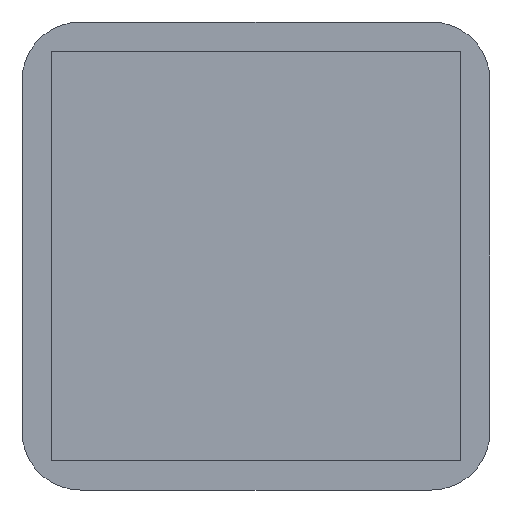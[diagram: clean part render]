
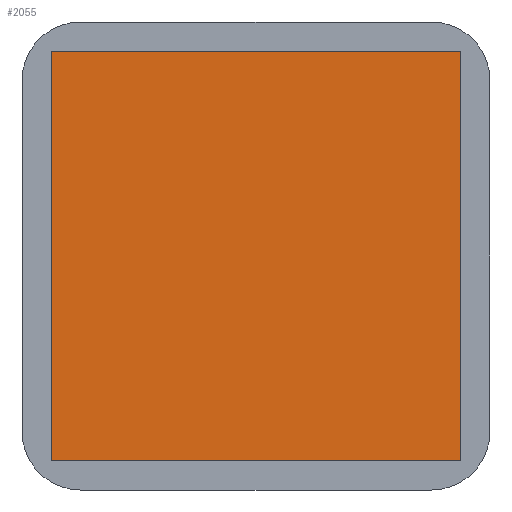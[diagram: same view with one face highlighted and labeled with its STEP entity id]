
A CAD part, front view. The second image highlights one B-rep face of the part: STEP entity #2055.
In plain terms, the highlighted planar face has unit normal (0, -1, 0).
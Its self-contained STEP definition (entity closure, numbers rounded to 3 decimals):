
#128 = VERTEX_POINT ( 'NONE', #178 ) ;
#178 = CARTESIAN_POINT ( 'NONE',  ( 11.087, -13.936, 0.225 ) ) ;
#196 = DIRECTION ( 'NONE',  ( 0., 0., 1. ) ) ;
#250 = ORIENTED_EDGE ( 'NONE', *, *, #2087, .F. ) ;
#320 = PLANE ( 'NONE',  #1881 ) ;
#393 = LINE ( 'NONE', #820, #1953 ) ;
#493 = EDGE_CURVE ( 'NONE', #644, #1561, #902, .T. ) ;
#578 = DIRECTION ( 'NONE',  ( 0., 1., 0. ) ) ;
#644 = VERTEX_POINT ( 'NONE', #1564 ) ;
#706 = CARTESIAN_POINT ( 'NONE',  ( -2.913, -13.936, 14.225 ) ) ;
#720 = VECTOR ( 'NONE', #2153, 1000. ) ;
#820 = CARTESIAN_POINT ( 'NONE',  ( -2.913, -13.936, 0.225 ) ) ;
#873 = CARTESIAN_POINT ( 'NONE',  ( -2.913, -13.936, 0.225 ) ) ;
#902 = LINE ( 'NONE', #706, #1972 ) ;
#968 = LINE ( 'NONE', #1566, #1387 ) ;
#1041 = CARTESIAN_POINT ( 'NONE',  ( 11.087, -13.936, 0.225 ) ) ;
#1148 = DIRECTION ( 'NONE',  ( 0., 0., 1. ) ) ;
#1203 = ORIENTED_EDGE ( 'NONE', *, *, #2118, .F. ) ;
#1220 = LINE ( 'NONE', #1041, #720 ) ;
#1387 = VECTOR ( 'NONE', #196, 1000. ) ;
#1561 = VERTEX_POINT ( 'NONE', #2335 ) ;
#1564 = CARTESIAN_POINT ( 'NONE',  ( -2.913, -13.936, 14.225 ) ) ;
#1566 = CARTESIAN_POINT ( 'NONE',  ( -2.913, -13.936, 0.225 ) ) ;
#1579 = VERTEX_POINT ( 'NONE', #873 ) ;
#1798 = EDGE_LOOP ( 'NONE', ( #250, #1203, #2247, #2347 ) ) ;
#1881 = AXIS2_PLACEMENT_3D ( 'NONE', #2053, #578, #1148 ) ;
#1953 = VECTOR ( 'NONE', #2248, 1000. ) ;
#1964 = DIRECTION ( 'NONE',  ( 1., 0., 0. ) ) ;
#1972 = VECTOR ( 'NONE', #1964, 1000. ) ;
#2020 = FACE_OUTER_BOUND ( 'NONE', #1798, .T. ) ;
#2053 = CARTESIAN_POINT ( 'NONE',  ( -2.913, -13.936, 0.225 ) ) ;
#2055 = ADVANCED_FACE ( 'NONE', ( #2020 ), #320, .F. ) ;
#2087 = EDGE_CURVE ( 'NONE', #1579, #644, #968, .T. ) ;
#2118 = EDGE_CURVE ( 'NONE', #128, #1579, #393, .T. ) ;
#2153 = DIRECTION ( 'NONE',  ( 0., 0., -1. ) ) ;
#2247 = ORIENTED_EDGE ( 'NONE', *, *, #2265, .F. ) ;
#2248 = DIRECTION ( 'NONE',  ( -1., 0., 0. ) ) ;
#2265 = EDGE_CURVE ( 'NONE', #1561, #128, #1220, .T. ) ;
#2335 = CARTESIAN_POINT ( 'NONE',  ( 11.087, -13.936, 14.225 ) ) ;
#2347 = ORIENTED_EDGE ( 'NONE', *, *, #493, .F. ) ;
